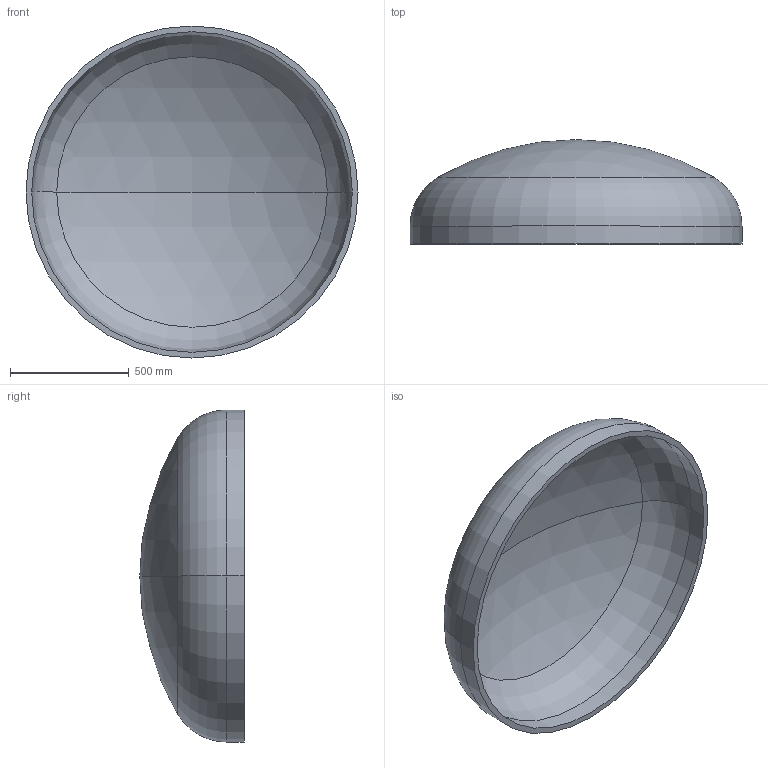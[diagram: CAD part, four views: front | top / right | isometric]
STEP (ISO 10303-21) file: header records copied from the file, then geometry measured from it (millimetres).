
FILE_DESCRIPTION (( 'STEP AP203' ), '1' );
FILE_NAME ('DIN 28013 Korbbogenform_-_Boden DIN 28013 - 1400 x 75 - I - s=24.step', '2016-07-01T10:12:18', ( '' ), ( '' ), 'SwSTEP 2.0', 'SolidWorks 2013', '' );
FILE_SCHEMA (( 'CONFIG_CONTROL_DESIGN' ));
Length unit declared in the file: millimetre
Products named in the file (1): DIN 28013 Korbbogenform_-_Boden DIN 28013 - 1400 x 75 - I - s=24
Bounding box: 1400 x 440.22 x 1400 mm (x, y, z)
Volume: 57778019.5 mm3; surface area: 4919787.7 mm2
Topology: 1 solids, 1 shells, 13 faces, 24 edges, 14 vertices
Faces by surface type: torus 4, cylinder 4, sphere 4, plane 1
Entity records: 407 total; most frequent: DIRECTION 72, CARTESIAN_POINT 52, ORIENTED_EDGE 48, AXIS2_PLACEMENT_3D 34, EDGE_CURVE 24, CIRCLE 20, EDGE_LOOP 14, VERTEX_POINT 14
